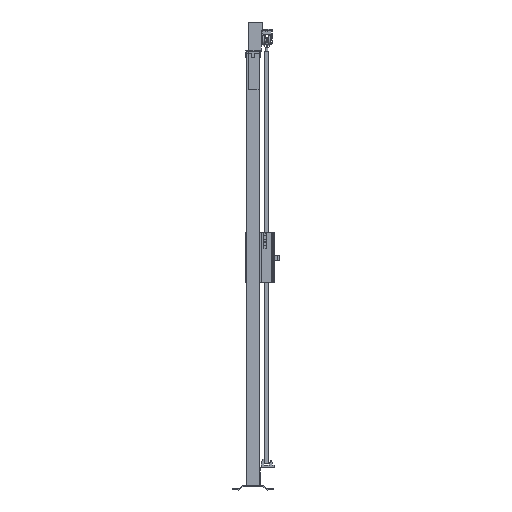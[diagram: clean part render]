
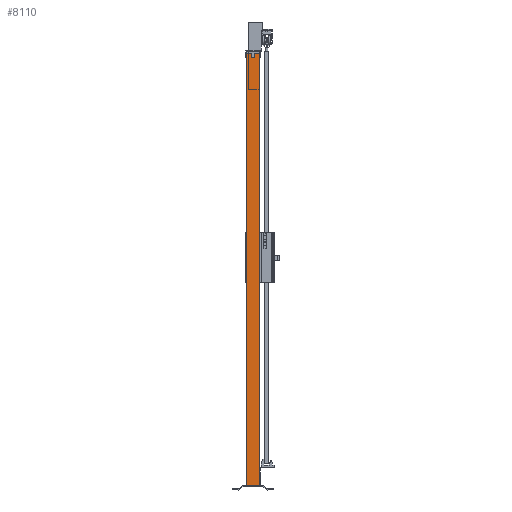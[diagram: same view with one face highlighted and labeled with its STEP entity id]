
A CAD part, left-side view. The second image highlights one B-rep face of the part: STEP entity #8110.
In plain terms, the highlighted planar face has unit normal (-1, 0, 0).
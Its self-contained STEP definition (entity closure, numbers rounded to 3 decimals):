
#831=FACE_OUTER_BOUND('',#1234,.T.);
#1234=EDGE_LOOP('',(#5962,#5963,#5964,#5965));
#1863=LINE('',#11979,#2942);
#1867=LINE('',#11988,#2946);
#1869=LINE('',#11991,#2948);
#1871=LINE('',#11994,#2950);
#2942=VECTOR('',#9487,1.);
#2946=VECTOR('',#9493,1.);
#2948=VECTOR('',#9497,1.);
#2950=VECTOR('',#9501,1.);
#3848=VERTEX_POINT('',#11976);
#3849=VERTEX_POINT('',#11978);
#3852=VERTEX_POINT('',#11985);
#3853=VERTEX_POINT('',#11987);
#4678=EDGE_CURVE('',#3848,#3849,#1863,.T.);
#4682=EDGE_CURVE('',#3852,#3853,#1867,.T.);
#4684=EDGE_CURVE('',#3849,#3852,#1869,.T.);
#4686=EDGE_CURVE('',#3848,#3853,#1871,.T.);
#5962=ORIENTED_EDGE('',*,*,#4686,.T.);
#5963=ORIENTED_EDGE('',*,*,#4682,.F.);
#5964=ORIENTED_EDGE('',*,*,#4684,.F.);
#5965=ORIENTED_EDGE('',*,*,#4678,.F.);
#7752=PLANE('',#8558);
#8110=ADVANCED_FACE('',(#831),#7752,.F.);
#8558=AXIS2_PLACEMENT_3D('',#11993,#9499,#9500);
#9487=DIRECTION('',(0.,-1.,0.));
#9493=DIRECTION('',(0.,1.,0.));
#9497=DIRECTION('',(0.,0.,-1.));
#9499=DIRECTION('center_axis',(1.,0.,0.));
#9500=DIRECTION('ref_axis',(0.,0.,-1.));
#9501=DIRECTION('',(0.,0.,-1.));
#11976=CARTESIAN_POINT('',(-30.,30.,2020.));
#11978=CARTESIAN_POINT('',(-30.,-30.,2020.));
#11979=CARTESIAN_POINT('',(-30.,0.,2020.));
#11985=CARTESIAN_POINT('',(-30.,-30.,20.));
#11987=CARTESIAN_POINT('',(-30.,30.,20.));
#11988=CARTESIAN_POINT('',(-30.,0.,20.));
#11991=CARTESIAN_POINT('',(-30.,-30.,1020.));
#11993=CARTESIAN_POINT('Origin',(-30.,0.,
1020.));
#11994=CARTESIAN_POINT('',(-30.,30.,1020.));
